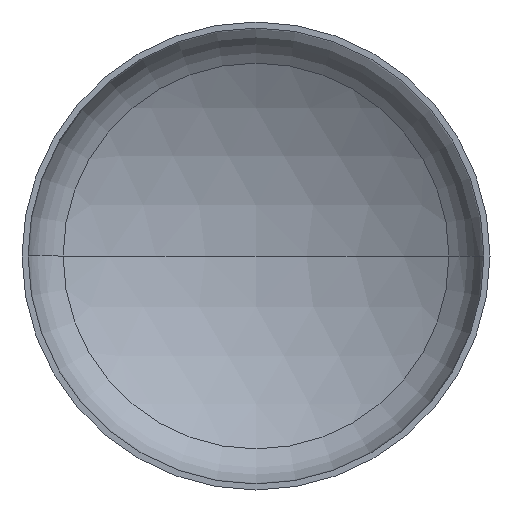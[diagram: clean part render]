
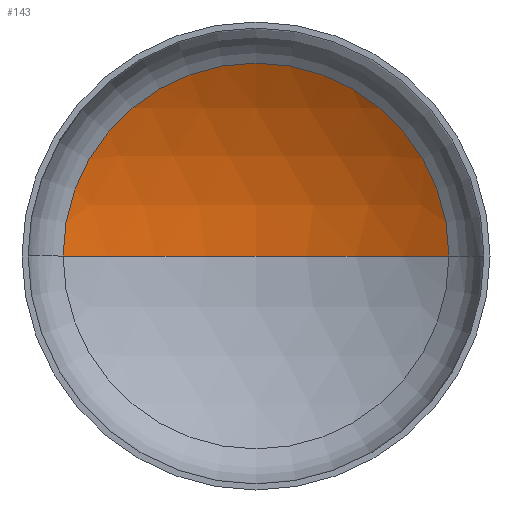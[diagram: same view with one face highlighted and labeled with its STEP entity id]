
A CAD part, front view. The second image highlights one B-rep face of the part: STEP entity #143.
In plain terms, the highlighted spherical face has radius 3600 mm.
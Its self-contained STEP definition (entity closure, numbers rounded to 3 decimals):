
#23 = AXIS2_PLACEMENT_3D ( 'NONE', #315, #118, #154 ) ;
#26 = AXIS2_PLACEMENT_3D ( 'NONE', #162, #347, #191 ) ;
#33 = VERTEX_POINT ( 'NONE', #368 ) ;
#36 = VERTEX_POINT ( 'NONE', #285 ) ;
#54 = ORIENTED_EDGE ( 'NONE', *, *, #334, .T. ) ;
#63 = VERTEX_POINT ( 'NONE', #237 ) ;
#70 = AXIS2_PLACEMENT_3D ( 'NONE', #196, #211, #189 ) ;
#115 = EDGE_LOOP ( 'NONE', ( #298, #328, #54 ) ) ;
#118 = DIRECTION ( 'NONE',  ( 0., 0., -1. ) ) ;
#143 = ADVANCED_FACE ( 'NONE', ( #352 ), #408, .F. ) ;
#154 = DIRECTION ( 'NONE',  ( -1., 0., 0. ) ) ;
#161 = CIRCLE ( 'NONE', #217, 3600. ) ;
#162 = CARTESIAN_POINT ( 'NONE',  ( 0., 715.614, 0. ) ) ;
#179 = CIRCLE ( 'NONE', #26, 1855.146 ) ;
#189 = DIRECTION ( 'NONE',  ( -1., 0., 0. ) ) ;
#191 = DIRECTION ( 'NONE',  ( 1., 0., 0. ) ) ;
#192 = CARTESIAN_POINT ( 'NONE',  ( 0., -2369.581, 0. ) ) ;
#196 = CARTESIAN_POINT ( 'NONE',  ( 0., -2369.581, 0. ) ) ;
#211 = DIRECTION ( 'NONE',  ( 0., 0., -1. ) ) ;
#217 = AXIS2_PLACEMENT_3D ( 'NONE', #192, #371, #218 ) ;
#218 = DIRECTION ( 'NONE',  ( 1., 0., 0. ) ) ;
#237 = CARTESIAN_POINT ( 'NONE',  ( 1855.146, 715.614, 0. ) ) ;
#285 = CARTESIAN_POINT ( 'NONE',  ( 0., 1230.419, 0. ) ) ;
#298 = ORIENTED_EDGE ( 'NONE', *, *, #390, .F. ) ;
#302 = CIRCLE ( 'NONE', #23, 3600. ) ;
#315 = CARTESIAN_POINT ( 'NONE',  ( 0., -2369.581, 0. ) ) ;
#328 = ORIENTED_EDGE ( 'NONE', *, *, #335, .T. ) ;
#334 = EDGE_CURVE ( 'NONE', #63, #33, #179, .T. ) ;
#335 = EDGE_CURVE ( 'NONE', #36, #63, #302, .T. ) ;
#347 = DIRECTION ( 'NONE',  ( 0., -1., 0. ) ) ;
#352 = FACE_OUTER_BOUND ( 'NONE', #115, .T. ) ;
#368 = CARTESIAN_POINT ( 'NONE',  ( -1855.146, 715.614, 0. ) ) ;
#371 = DIRECTION ( 'NONE',  ( 0., 0., 1. ) ) ;
#390 = EDGE_CURVE ( 'NONE', #36, #33, #161, .T. ) ;
#408 = SPHERICAL_SURFACE ( 'NONE', #70, 3600. ) ;
